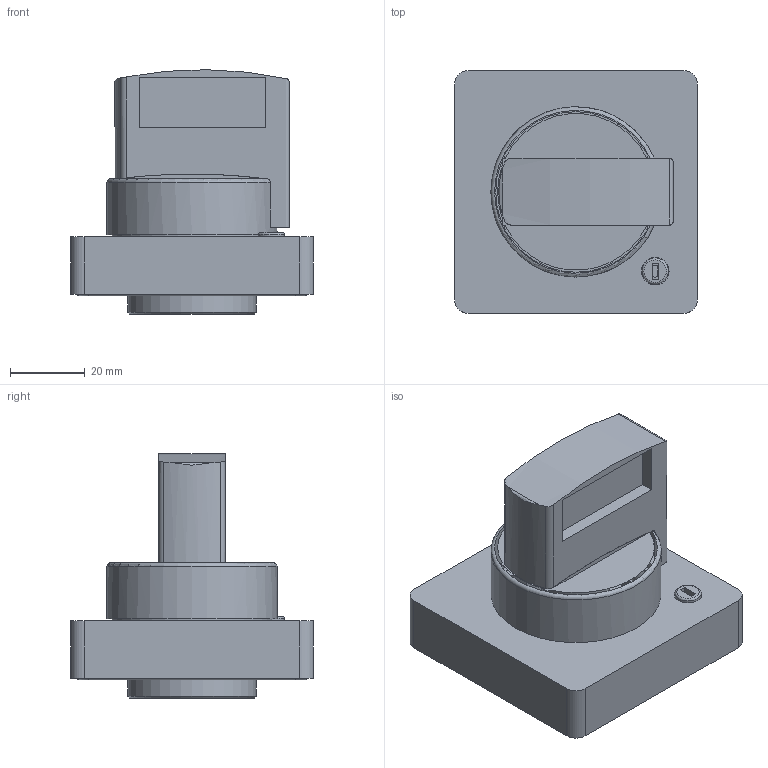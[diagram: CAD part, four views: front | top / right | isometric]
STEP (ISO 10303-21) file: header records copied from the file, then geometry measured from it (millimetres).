
FILE_DESCRIPTION(/* description */ ('STEP AP214'),/* implementation_level */ '2;1');
FILE_NAME(/* name */ '140MT-C-DN66',/* time_stamp */ '2024-06-05T18:52:15+02:00',/* author */ ('License CC BY-ND 4.0'),/* organization */ ('CADENAS'),/* preprocessor_version */ 'ST-DEVELOPER v19.3',/* originating_system */ 'PARTsolutions',/* authorisation */ ' ');
FILE_SCHEMA (('AUTOMOTIVE_DESIGN {1 0 10303 214 3 1 1}'));
Length unit declared in the file: millimetre
Products named in the file (1): 140MT-C-DN66
Bounding box: 65 x 65 x 65.49 mm (x, y, z)
Volume: 103567.5 mm3; surface area: 26845.4 mm2
Topology: 1 solids, 1 shells, 233 faces, 575 edges, 381 vertices
Faces by surface type: plane 138, cylinder 82, torus 10, cone 2, sphere 1
Full cylindrical faces by diameter (mm): 2.5 x4, 3 x4, 3.2 x4, 6 x5, 7 x2, 7.4 x1, 24.84 x1, 32 x1, 34.5 x1, 43 x1, 45.6 x1
Entity records: 8467 total; most frequent: CARTESIAN_POINT 1220, DIRECTION 1194, ORIENTED_EDGE 1092, EDGE_CURVE 546, AXIS2_PLACEMENT_3D 427, VERTEX_POINT 380, LINE 340, VECTOR 340
